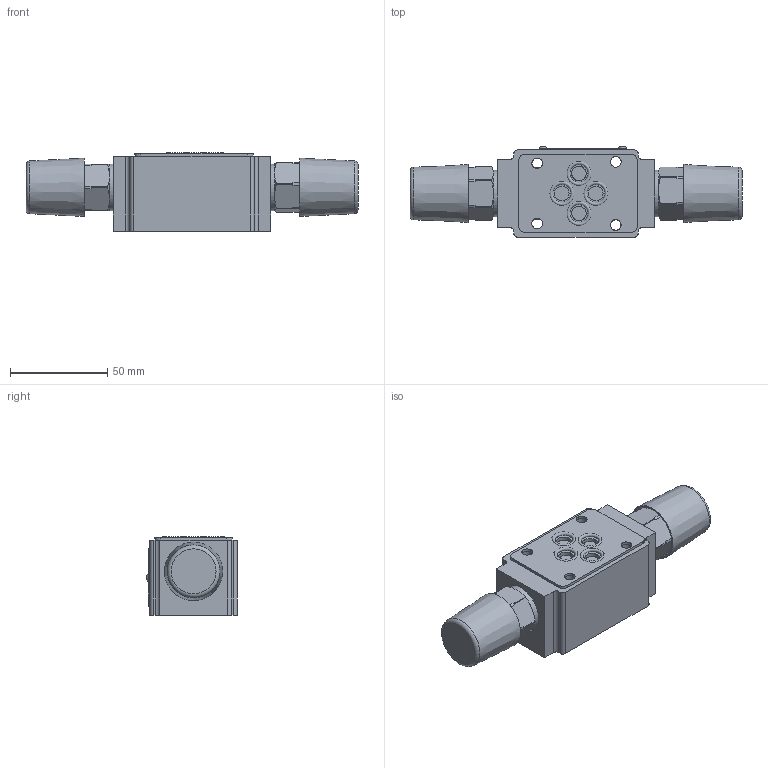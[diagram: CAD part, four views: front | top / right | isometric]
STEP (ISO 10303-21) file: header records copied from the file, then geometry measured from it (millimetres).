
FILE_DESCRIPTION(/* description */ (''),/* implementation_level */ '2;1');
FILE_NAME(/* name */ 'Z2FS6-2-4XJ-S叠加式单向节流阀.prt.stp',/* time_stamp */ '2022-03-30T20:04:03+08:00',/* author */ (''),/* organization */ (''),/* preprocessor_version */ 'ST-DEVELOPER v16.7',/* originating_system */ 'SIEMENS PLM Software NX 12.0',/* authorisation */ '');
FILE_SCHEMA (('AUTOMOTIVE_DESIGN { 1 0 10303 214 3 1 1 1 }'));
Products named in the file (1): Z2FS6-2-4XJ-S叠加式单向节流阀
Bounding box: 171 x 46.6 x 40.4 mm (x, y, z)
Volume: 166030.5 mm3; surface area: 52545.4 mm2
Topology: 42 solids, 52 shells, 968 faces, 2506 edges, 1647 vertices
Faces by surface type: plane 623, cylinder 193, cone 74, bspline 41, torus 14, extrusion 13, sphere 10
Full cylindrical faces by diameter (mm): 1.8 x4, 2.5 x2, 5.2 x2, 5.4 x2, 5.5 x4, 5.6 x2, 7.5 x6, 10 x2, 12.2 x4, 18.3 x2, 24 x2, 26.5 x2
Entity records: 65823 total; most frequent: CARTESIAN_POINT 42505, ORIENTED_EDGE 4774, DIRECTION 4317, EDGE_CURVE 2387, VECTOR 1677, LINE 1664, VERTEX_POINT 1622, AXIS2_PLACEMENT_3D 1320
